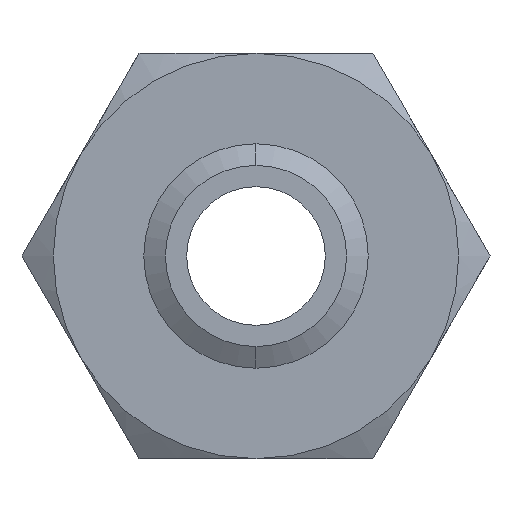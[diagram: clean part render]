
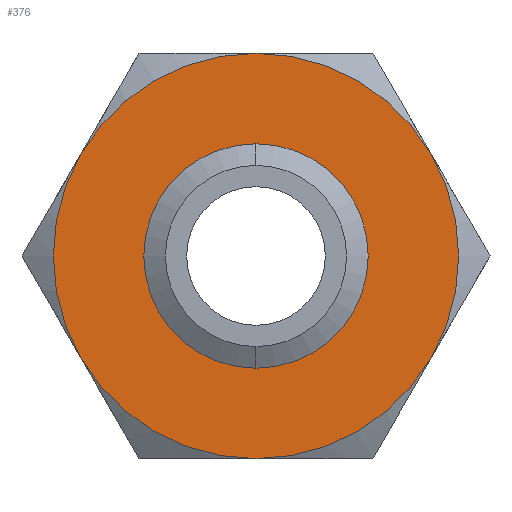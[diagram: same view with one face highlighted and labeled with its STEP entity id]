
A CAD part, front view. The second image highlights one B-rep face of the part: STEP entity #376.
In plain terms, the highlighted planar face has unit normal (0, -1, 0).
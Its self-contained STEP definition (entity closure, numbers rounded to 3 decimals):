
#136 = EDGE_LOOP ( 'NONE', ( #146, #149 ) ) ;
#139 = ORIENTED_EDGE ( 'NONE', *, *, #145, .F. ) ;
#140 = EDGE_CURVE ( 'NONE', #141, #1849, #697, .T. ) ;
#141 = VERTEX_POINT ( 'NONE', #692 ) ;
#142 = VERTEX_POINT ( 'NONE', #691 ) ;
#143 = ORIENTED_EDGE ( 'NONE', *, *, #144, .F. ) ;
#144 = EDGE_CURVE ( 'NONE', #142, #141, #689, .T. ) ;
#145 = EDGE_CURVE ( 'NONE', #818, #142, #748, .T. ) ;
#146 = ORIENTED_EDGE ( 'NONE', *, *, #2128, .F. ) ;
#148 = EDGE_CURVE ( 'NONE', #2132, #2131, #744, .T. ) ;
#149 = ORIENTED_EDGE ( 'NONE', *, *, #148, .F. ) ;
#159 = ORIENTED_EDGE ( 'NONE', *, *, #140, .F. ) ;
#376 = ADVANCED_FACE ( 'NONE', ( #1171, #1167 ), #1166, .F. ) ;
#629 = VERTEX_POINT ( 'NONE', #1404 ) ;
#685 = DIRECTION ( 'NONE',  ( 0., 0., 1. ) ) ;
#686 = DIRECTION ( 'NONE',  ( 0., 1., 0. ) ) ;
#687 = CARTESIAN_POINT ( 'NONE',  ( 0., 0., 0. ) ) ;
#688 = AXIS2_PLACEMENT_3D ( 'NONE', #687, #686, #685 ) ;
#689 = CIRCLE ( 'NONE', #688, 32.5 ) ;
#690 = CARTESIAN_POINT ( 'NONE',  ( 0., 0., 0. ) ) ;
#691 = CARTESIAN_POINT ( 'NONE',  ( 28.146, 0., -16.25 ) ) ;
#692 = CARTESIAN_POINT ( 'NONE',  ( 0., 0., -32.5 ) ) ;
#693 = DIRECTION ( 'NONE',  ( 0., 0., 1. ) ) ;
#694 = DIRECTION ( 'NONE',  ( 0., 1., 0. ) ) ;
#695 = CARTESIAN_POINT ( 'NONE',  ( 0., 0., 0. ) ) ;
#696 = AXIS2_PLACEMENT_3D ( 'NONE', #695, #694, #693 ) ;
#697 = CIRCLE ( 'NONE', #696, 32.5 ) ;
#740 = DIRECTION ( 'NONE',  ( 0., 0., -1. ) ) ;
#741 = DIRECTION ( 'NONE',  ( 0., -1., 0. ) ) ;
#742 = CARTESIAN_POINT ( 'NONE',  ( 0., 0., 0. ) ) ;
#743 = AXIS2_PLACEMENT_3D ( 'NONE', #742, #741, #740 ) ;
#744 = CIRCLE ( 'NONE', #743, 14.536 ) ;
#745 = DIRECTION ( 'NONE',  ( 0., 0., 1. ) ) ;
#746 = DIRECTION ( 'NONE',  ( 0., 1., 0. ) ) ;
#747 = AXIS2_PLACEMENT_3D ( 'NONE', #690, #746, #745 ) ;
#748 = CIRCLE ( 'NONE', #747, 32.5 ) ;
#818 = VERTEX_POINT ( 'NONE', #1398 ) ;
#892 = EDGE_LOOP ( 'NONE', ( #991, #1877, #1197, #159, #143, #139 ) ) ;
#991 = ORIENTED_EDGE ( 'NONE', *, *, #1929, .F. ) ;
#1161 = DIRECTION ( 'NONE',  ( 0., 0., 1. ) ) ;
#1162 = DIRECTION ( 'NONE',  ( 0., 1., 0. ) ) ;
#1163 = CARTESIAN_POINT ( 'NONE',  ( 18.764, 0., -32.5 ) ) ;
#1165 = AXIS2_PLACEMENT_3D ( 'NONE', #1163, #1162, #1161 ) ;
#1166 = PLANE ( 'NONE',  #1165 ) ;
#1167 = FACE_BOUND ( 'NONE', #136, .T. ) ;
#1171 = FACE_OUTER_BOUND ( 'NONE', #892, .T. ) ;
#1197 = ORIENTED_EDGE ( 'NONE', *, *, #1940, .F. ) ;
#1398 = CARTESIAN_POINT ( 'NONE',  ( 28.146, 0., 16.25 ) ) ;
#1404 = CARTESIAN_POINT ( 'NONE',  ( 0., 0., 32.5 ) ) ;
#1436 = DIRECTION ( 'NONE',  ( 0., 0., 1. ) ) ;
#1437 = DIRECTION ( 'NONE',  ( 0., 1., 0. ) ) ;
#1438 = CARTESIAN_POINT ( 'NONE',  ( 0., 0., 0. ) ) ;
#1439 = AXIS2_PLACEMENT_3D ( 'NONE', #1438, #1437, #1436 ) ;
#1440 = CIRCLE ( 'NONE', #1439, 32.5 ) ;
#1441 = CARTESIAN_POINT ( 'NONE',  ( -28.146, 0., 16.25 ) ) ;
#1442 = CARTESIAN_POINT ( 'NONE',  ( -28.146, 0., -16.25 ) ) ;
#1466 = DIRECTION ( 'NONE',  ( 0., 0., 1. ) ) ;
#1467 = DIRECTION ( 'NONE',  ( 0., 1., 0. ) ) ;
#1468 = CARTESIAN_POINT ( 'NONE',  ( 0., 0., 0. ) ) ;
#1469 = AXIS2_PLACEMENT_3D ( 'NONE', #1468, #1467, #1466 ) ;
#1470 = CIRCLE ( 'NONE', #1469, 32.5 ) ;
#1471 = DIRECTION ( 'NONE',  ( 0., 0., 1. ) ) ;
#1472 = DIRECTION ( 'NONE',  ( 0., 1., 0. ) ) ;
#1473 = CARTESIAN_POINT ( 'NONE',  ( 0., 0., 0. ) ) ;
#1474 = AXIS2_PLACEMENT_3D ( 'NONE', #1473, #1472, #1471 ) ;
#1475 = CIRCLE ( 'NONE', #1474, 32.5 ) ;
#1810 = CARTESIAN_POINT ( 'NONE',  ( 0., 0., 14.536 ) ) ;
#1811 = CARTESIAN_POINT ( 'NONE',  ( 0., 0., -14.536 ) ) ;
#1816 = DIRECTION ( 'NONE',  ( 0., 0., -1. ) ) ;
#1817 = DIRECTION ( 'NONE',  ( 0., -1., 0. ) ) ;
#1818 = CARTESIAN_POINT ( 'NONE',  ( 0., 0., 0. ) ) ;
#1819 = AXIS2_PLACEMENT_3D ( 'NONE', #1818, #1817, #1816 ) ;
#1820 = CIRCLE ( 'NONE', #1819, 14.536 ) ;
#1849 = VERTEX_POINT ( 'NONE', #1442 ) ;
#1854 = VERTEX_POINT ( 'NONE', #1441 ) ;
#1877 = ORIENTED_EDGE ( 'NONE', *, *, #1941, .F. ) ;
#1929 = EDGE_CURVE ( 'NONE', #629, #818, #1440, .T. ) ;
#1940 = EDGE_CURVE ( 'NONE', #1849, #1854, #1475, .T. ) ;
#1941 = EDGE_CURVE ( 'NONE', #1854, #629, #1470, .T. ) ;
#2128 = EDGE_CURVE ( 'NONE', #2131, #2132, #1820, .T. ) ;
#2131 = VERTEX_POINT ( 'NONE', #1811 ) ;
#2132 = VERTEX_POINT ( 'NONE', #1810 ) ;
